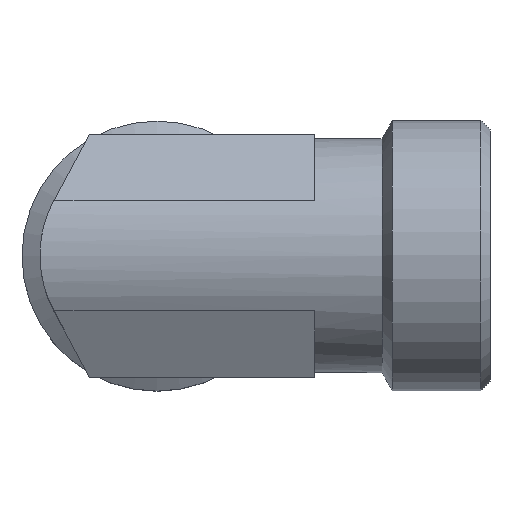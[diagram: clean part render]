
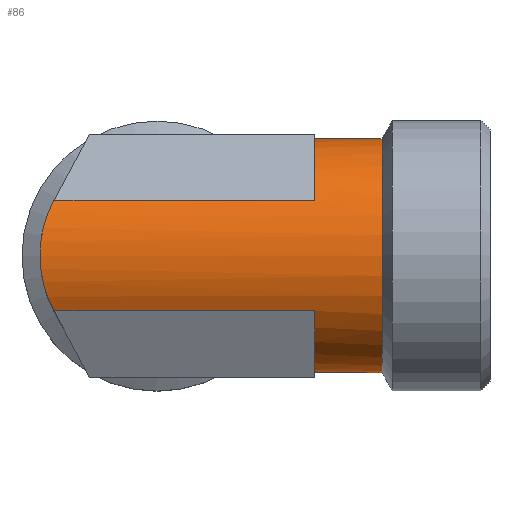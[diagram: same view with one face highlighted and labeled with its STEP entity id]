
A CAD part, top view. The second image highlights one B-rep face of the part: STEP entity #86.
In plain terms, the highlighted cylindrical face has radius 13 mm (diameter 26 mm), a full revolution.
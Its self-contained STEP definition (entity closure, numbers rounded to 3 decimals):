
#86 = ADVANCED_FACE( '', ( #195, #196 ), #197, .T. );
#195 = FACE_OUTER_BOUND( '', #334, .T. );
#196 = FACE_OUTER_BOUND( '', #335, .T. );
#197 = CYLINDRICAL_SURFACE( '', #336, 13. );
#334 = EDGE_LOOP( '', ( #511 ) );
#335 = EDGE_LOOP( '', ( #512, #513, #514, #515, #516, #517, #518, #519 ) );
#336 = AXIS2_PLACEMENT_3D( '', #520, #521, #522 );
#511 = ORIENTED_EDGE( '', *, *, #754, .T. );
#512 = ORIENTED_EDGE( '', *, *, #757, .T. );
#513 = ORIENTED_EDGE( '', *, *, #748, .F. );
#514 = ORIENTED_EDGE( '', *, *, #758, .F. );
#515 = ORIENTED_EDGE( '', *, *, #720, .T. );
#516 = ORIENTED_EDGE( '', *, *, #759, .T. );
#517 = ORIENTED_EDGE( '', *, *, #730, .T. );
#518 = ORIENTED_EDGE( '', *, *, #760, .F. );
#519 = ORIENTED_EDGE( '', *, *, #725, .T. );
#520 = CARTESIAN_POINT( '', ( -13., 0., 0. ) );
#521 = DIRECTION( '', ( 1., 0., 0. ) );
#522 = DIRECTION( '', ( 0., 0., 1. ) );
#720 = EDGE_CURVE( '', #827, #831, #833, .T. );
#725 = EDGE_CURVE( '', #840, #841, #842, .F. );
#730 = EDGE_CURVE( '', #849, #850, #851, .T. );
#748 = EDGE_CURVE( '', #877, #879, #880, .T. );
#754 = EDGE_CURVE( '', #888, #888, #889, .T. );
#757 = EDGE_CURVE( '', #841, #879, #893, .T. );
#758 = EDGE_CURVE( '', #827, #877, #894, .T. );
#759 = EDGE_CURVE( '', #831, #849, #895, .T. );
#760 = EDGE_CURVE( '', #840, #850, #896, .T. );
#827 = VERTEX_POINT( '', #978 );
#831 = VERTEX_POINT( '', #984 );
#833 = LINE( '', #987, #988 );
#840 = VERTEX_POINT( '', #995 );
#841 = VERTEX_POINT( '', #996 );
#842 = LINE( '', #997, #998 );
#849 = VERTEX_POINT( '', #1008 );
#850 = VERTEX_POINT( '', #1009 );
#851 = LINE( '', #1010, #1011 );
#877 = VERTEX_POINT( '', #1041 );
#879 = VERTEX_POINT( '', #1044 );
#880 = LINE( '', #1045, #1046 );
#888 = VERTEX_POINT( '', #1055 );
#889 = CIRCLE( '', #1056, 13. );
#893 = CIRCLE( '', #1060, 13. );
#894 = ELLIPSE( '', #1061, 18.385, 13. );
#895 = CIRCLE( '', #1062, 13. );
#896 = ELLIPSE( '', #1063, 18.385, 13. );
#978 = CARTESIAN_POINT( '', ( -11.449, -6.158, 11.449 ) );
#984 = CARTESIAN_POINT( '', ( 17.5, -6.158, 11.449 ) );
#987 = CARTESIAN_POINT( '', ( -22.5, -6.158, 11.449 ) );
#988 = VECTOR( '', #1154, 1000. );
#995 = CARTESIAN_POINT( '', ( 7.5, 10.618, -7.5 ) );
#996 = CARTESIAN_POINT( '', ( 17.5, 10.618, -7.5 ) );
#997 = CARTESIAN_POINT( '', ( -13., 10.618, -7.5 ) );
#998 = VECTOR( '', #1161, 1000. );
#1008 = CARTESIAN_POINT( '', ( 17.5, -10.618, -7.5 ) );
#1009 = CARTESIAN_POINT( '', ( 7.5, -10.618, -7.5 ) );
#1010 = CARTESIAN_POINT( '', ( -13., -10.618, -7.5 ) );
#1011 = VECTOR( '', #1165, 1000. );
#1041 = CARTESIAN_POINT( '', ( -11.449, 6.158, 11.449 ) );
#1044 = CARTESIAN_POINT( '', ( 17.5, 6.158, 11.449 ) );
#1045 = CARTESIAN_POINT( '', ( -22.5, 6.158, 11.449 ) );
#1046 = VECTOR( '', #1195, 1000. );
#1055 = CARTESIAN_POINT( '', ( 25., 0., 13. ) );
#1056 = AXIS2_PLACEMENT_3D( '', #1203, #1204, #1205 );
#1060 = AXIS2_PLACEMENT_3D( '', #1209, #1210, #1211 );
#1061 = AXIS2_PLACEMENT_3D( '', #1212, #1213, #1214 );
#1062 = AXIS2_PLACEMENT_3D( '', #1215, #1216, #1217 );
#1063 = AXIS2_PLACEMENT_3D( '', #1218, #1219, #1220 );
#1154 = DIRECTION( '', ( 1., 0., 0. ) );
#1161 = DIRECTION( '', ( -1., 0., 0. ) );
#1165 = DIRECTION( '', ( -1., 0., 0. ) );
#1195 = DIRECTION( '', ( 1., 0., 0. ) );
#1203 = CARTESIAN_POINT( '', ( 25., 0., 0. ) );
#1204 = DIRECTION( '', ( -1., 0., 0. ) );
#1205 = DIRECTION( '', ( 0., 0., 1. ) );
#1209 = CARTESIAN_POINT( '', ( 17.5, 0., 0. ) );
#1210 = DIRECTION( '', ( 1., 0., 0. ) );
#1211 = DIRECTION( '', ( 0., 0., -1. ) );
#1212 = CARTESIAN_POINT( '', ( 0., 0., 0. ) );
#1213 = DIRECTION( '', ( -0.707, 0., -0.707 ) );
#1214 = DIRECTION( '', ( -0.707, 0., 0.707 ) );
#1215 = CARTESIAN_POINT( '', ( 17.5, 0., 0. ) );
#1216 = DIRECTION( '', ( 1., 0., 0. ) );
#1217 = DIRECTION( '', ( 0., 0., -1. ) );
#1218 = CARTESIAN_POINT( '', ( 0., 0., 0. ) );
#1219 = DIRECTION( '', ( -0.707, 0., -0.707 ) );
#1220 = DIRECTION( '', ( -0.707, 0., 0.707 ) );
